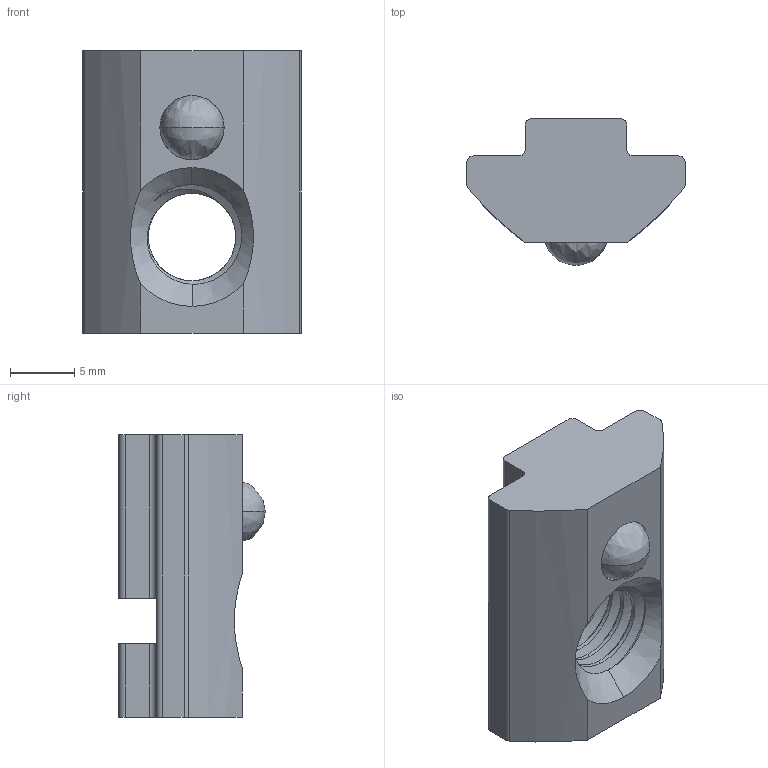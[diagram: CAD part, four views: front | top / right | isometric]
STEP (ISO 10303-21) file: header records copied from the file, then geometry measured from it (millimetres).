
FILE_DESCRIPTION (( 'STEP AP214' ), '1' );
FILE_NAME ('10361-01-0000-00.STEP', '2017-03-31T05:34:41', ( '' ), ( '' ), 'SwSTEP 2.0', 'SolidWorks 2016', '' );
FILE_SCHEMA (( 'AUTOMOTIVE_DESIGN' ));
Length unit declared in the file: millimetre
Products named in the file (1): 10361-01-0000-00
Bounding box: 17 x 11.4 x 22 mm (x, y, z)
Volume: 2104 mm3; surface area: 1686 mm2
Topology: 3 solids, 3 shells, 86 faces, 248 edges, 161 vertices
Faces by surface type: cylinder 32, bspline 28, plane 21, cone 5
Entity records: 9396 total; most frequent: CARTESIAN_POINT 6664, ORIENTED_EDGE 488, DIRECTION 318, EDGE_CURVE 244, VERTEX_POINT 161, AXIS2_PLACEMENT_3D 117, EDGE_LOOP 89, ADVANCED_FACE 86
